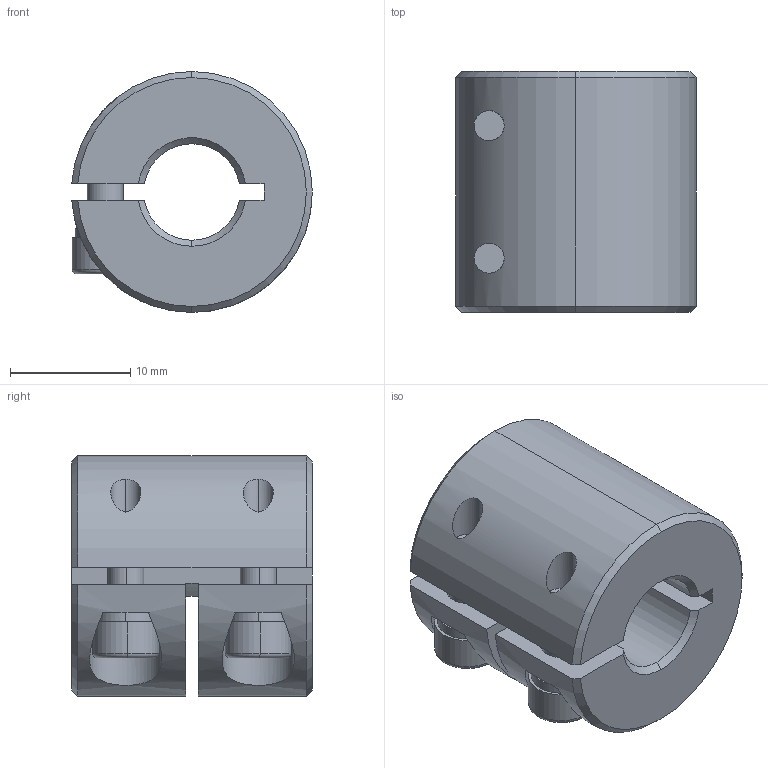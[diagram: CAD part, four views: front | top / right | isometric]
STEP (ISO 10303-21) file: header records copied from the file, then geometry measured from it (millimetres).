
FILE_DESCRIPTION (( 'STEP AP203' ), '1' );
FILE_NAME ('LL-B-D20L20-8-10.STEP', '2021-11-03T05:30:58', ( '' ), ( '' ), 'SwSTEP 2.0', 'SolidWorks 2018', '' );
FILE_SCHEMA (( 'CONFIG_CONTROL_DESIGN' ));
Length unit declared in the file: millimetre
Products named in the file (1): LL-B-D20L20-8-10
Bounding box: 19.98 x 20 x 20 mm (x, y, z)
Volume: 4574.2 mm3; surface area: 3100.6 mm2
Topology: 1 solids, 1 shells, 115 faces, 298 edges, 187 vertices
Faces by surface type: plane 53, cylinder 42, cone 16, torus 4
Entity records: 3764 total; most frequent: CARTESIAN_POINT 831, DIRECTION 625, ORIENTED_EDGE 588, EDGE_CURVE 294, AXIS2_PLACEMENT_3D 241, VERTEX_POINT 187, VECTOR 143, LINE 143
